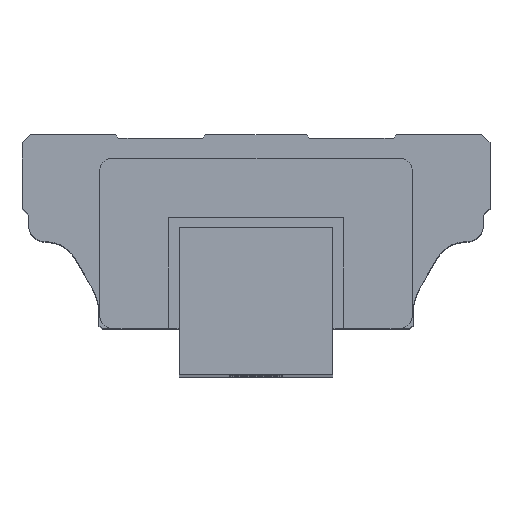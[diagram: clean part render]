
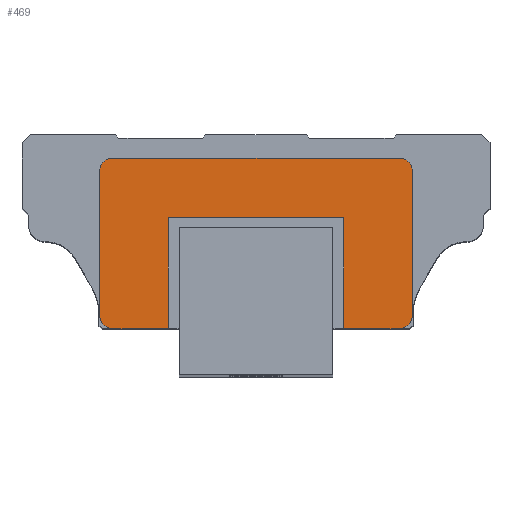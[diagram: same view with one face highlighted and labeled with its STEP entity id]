
A CAD part, top view. The second image highlights one B-rep face of the part: STEP entity #469.
In plain terms, the highlighted planar face has unit normal (0, 0, 1).
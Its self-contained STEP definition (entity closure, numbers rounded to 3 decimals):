
#469 = ADVANCED_FACE( '', ( #793 ), #794, .T. );
#793 = FACE_OUTER_BOUND( '', #1117, .T. );
#794 = PLANE( '', #1118 );
#1117 = EDGE_LOOP( '', ( #2373, #2374, #2375, #2376, #2377, #2378, #2379, #2380, #2381, #2382, #2383, #2384 ) );
#1118 = AXIS2_PLACEMENT_3D( '', #2385, #2386, #2387 );
#2373 = ORIENTED_EDGE( '', *, *, #2787, .F. );
#2374 = ORIENTED_EDGE( '', *, *, #2811, .F. );
#2375 = ORIENTED_EDGE( '', *, *, #2808, .F. );
#2376 = ORIENTED_EDGE( '', *, *, #2805, .F. );
#2377 = ORIENTED_EDGE( '', *, *, #2802, .F. );
#2378 = ORIENTED_EDGE( '', *, *, #2799, .F. );
#2379 = ORIENTED_EDGE( '', *, *, #2779, .F. );
#2380 = ORIENTED_EDGE( '', *, *, #2783, .F. );
#2381 = ORIENTED_EDGE( '', *, *, #2765, .F. );
#2382 = ORIENTED_EDGE( '', *, *, #2797, .F. );
#2383 = ORIENTED_EDGE( '', *, *, #2794, .F. );
#2384 = ORIENTED_EDGE( '', *, *, #2791, .F. );
#2385 = CARTESIAN_POINT( '', ( 11.9, 21.397, 153.8 ) );
#2386 = DIRECTION( '', ( 0., 0., 1. ) );
#2387 = DIRECTION( '', ( 1., 0., 0. ) );
#2765 = EDGE_CURVE( '', #3411, #3412, #3413, .T. );
#2779 = EDGE_CURVE( '', #3437, #3438, #3439, .T. );
#2783 = EDGE_CURVE( '', #3412, #3437, #3445, .T. );
#2787 = EDGE_CURVE( '', #3449, #3450, #3451, .T. );
#2791 = EDGE_CURVE( '', #3450, #3457, #3458, .T. );
#2794 = EDGE_CURVE( '', #3457, #3462, #3463, .T. );
#2797 = EDGE_CURVE( '', #3462, #3411, #3467, .T. );
#2799 = EDGE_CURVE( '', #3438, #3469, #3470, .T. );
#2802 = EDGE_CURVE( '', #3469, #3474, #3475, .T. );
#2805 = EDGE_CURVE( '', #3474, #3479, #3480, .T. );
#2808 = EDGE_CURVE( '', #3479, #3484, #3485, .T. );
#2811 = EDGE_CURVE( '', #3484, #3449, #3489, .T. );
#3411 = VERTEX_POINT( '', #4591 );
#3412 = VERTEX_POINT( '', #4592 );
#3413 = LINE( '', #4593, #4594 );
#3437 = VERTEX_POINT( '', #4631 );
#3438 = VERTEX_POINT( '', #4632 );
#3439 = LINE( '', #4633, #4634 );
#3445 = LINE( '', #4643, #4644 );
#3449 = VERTEX_POINT( '', #4651 );
#3450 = VERTEX_POINT( '', #4652 );
#3451 = CIRCLE( '', #4653, 2. );
#3457 = VERTEX_POINT( '', #4661 );
#3458 = LINE( '', #4662, #4663 );
#3462 = VERTEX_POINT( '', #4669 );
#3463 = CIRCLE( '', #4670, 2. );
#3467 = LINE( '', #4675, #4676 );
#3469 = VERTEX_POINT( '', #4679 );
#3470 = LINE( '', #4680, #4681 );
#3474 = VERTEX_POINT( '', #4687 );
#3475 = CIRCLE( '', #4688, 2. );
#3479 = VERTEX_POINT( '', #4693 );
#3480 = LINE( '', #4694, #4695 );
#3484 = VERTEX_POINT( '', #4701 );
#3485 = CIRCLE( '', #4702, 2. );
#3489 = LINE( '', #4707, #4708 );
#4591 = CARTESIAN_POINT( '', ( 25., 7., 153.8 ) );
#4592 = CARTESIAN_POINT( '', ( 25., 23.6, 153.8 ) );
#4593 = CARTESIAN_POINT( '', ( 25., 23.6, 153.8 ) );
#4594 = VECTOR( '', #5257, 1. );
#4631 = CARTESIAN_POINT( '', ( -1.2, 23.6, 153.8 ) );
#4632 = CARTESIAN_POINT( '', ( -1.2, 7., 153.8 ) );
#4633 = CARTESIAN_POINT( '', ( -1.2, 23.6, 153.8 ) );
#4634 = VECTOR( '', #5271, 1. );
#4643 = CARTESIAN_POINT( '', ( -1.2, 23.6, 153.8 ) );
#4644 = VECTOR( '', #5275, 1. );
#4651 = CARTESIAN_POINT( '', ( 33.3, 32.5, 153.8 ) );
#4652 = CARTESIAN_POINT( '', ( 35.3, 30.5, 153.8 ) );
#4653 = AXIS2_PLACEMENT_3D( '', #5279, #5280, #5281 );
#4661 = CARTESIAN_POINT( '', ( 35.3, 9., 153.8 ) );
#4662 = CARTESIAN_POINT( '', ( 35.3, 30.5, 153.8 ) );
#4663 = VECTOR( '', #5287, 1. );
#4669 = CARTESIAN_POINT( '', ( 33.3, 7., 153.8 ) );
#4670 = AXIS2_PLACEMENT_3D( '', #5290, #5291, #5292 );
#4675 = CARTESIAN_POINT( '', ( 25., 7., 153.8 ) );
#4676 = VECTOR( '', #5297, 1. );
#4679 = CARTESIAN_POINT( '', ( -9.5, 7., 153.8 ) );
#4680 = CARTESIAN_POINT( '', ( -9.5, 7., 153.8 ) );
#4681 = VECTOR( '', #5299, 1. );
#4687 = CARTESIAN_POINT( '', ( -11.5, 9., 153.8 ) );
#4688 = AXIS2_PLACEMENT_3D( '', #5302, #5303, #5304 );
#4693 = CARTESIAN_POINT( '', ( -11.5, 30.5, 153.8 ) );
#4694 = CARTESIAN_POINT( '', ( -11.5, 30.5, 153.8 ) );
#4695 = VECTOR( '', #5309, 1. );
#4701 = CARTESIAN_POINT( '', ( -9.5, 32.5, 153.8 ) );
#4702 = AXIS2_PLACEMENT_3D( '', #5312, #5313, #5314 );
#4707 = CARTESIAN_POINT( '', ( -9.5, 32.5, 153.8 ) );
#4708 = VECTOR( '', #5319, 1. );
#5257 = DIRECTION( '', ( 0., 1., 0. ) );
#5271 = DIRECTION( '', ( 0., -1., 0. ) );
#5275 = DIRECTION( '', ( -1., 0., 0. ) );
#5279 = CARTESIAN_POINT( '', ( 33.3, 30.5, 153.8 ) );
#5280 = DIRECTION( '', ( 0., 0., -1. ) );
#5281 = DIRECTION( '', ( 1., 0., 0. ) );
#5287 = DIRECTION( '', ( 0., -1., 0. ) );
#5290 = CARTESIAN_POINT( '', ( 33.3, 9., 153.8 ) );
#5291 = DIRECTION( '', ( 0., 0., -1. ) );
#5292 = DIRECTION( '', ( 1., 0., 0. ) );
#5297 = DIRECTION( '', ( -1., 0., 0. ) );
#5299 = DIRECTION( '', ( -1., 0., 0. ) );
#5302 = CARTESIAN_POINT( '', ( -9.5, 9., 153.8 ) );
#5303 = DIRECTION( '', ( 0., 0., -1. ) );
#5304 = DIRECTION( '', ( 1., 0., 0. ) );
#5309 = DIRECTION( '', ( 0., 1., 0. ) );
#5312 = CARTESIAN_POINT( '', ( -9.5, 30.5, 153.8 ) );
#5313 = DIRECTION( '', ( 0., 0., -1. ) );
#5314 = DIRECTION( '', ( 1., 0., 0. ) );
#5319 = DIRECTION( '', ( 1., 0., 0. ) );
